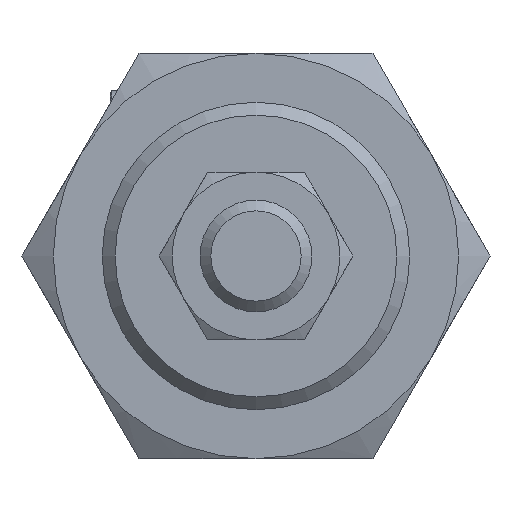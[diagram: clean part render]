
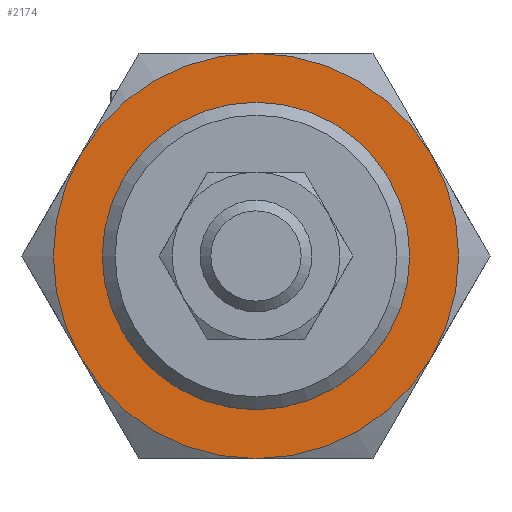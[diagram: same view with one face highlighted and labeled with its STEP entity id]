
A CAD part, left-side view. The second image highlights one B-rep face of the part: STEP entity #2174.
In plain terms, the highlighted planar face has unit normal (-1, 0, 0).
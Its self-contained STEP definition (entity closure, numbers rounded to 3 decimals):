
#750=ORIENTED_EDGE('',*,*,#1174,.T.);
#751=ORIENTED_EDGE('',*,*,#1179,.F.);
#752=ORIENTED_EDGE('',*,*,#1178,.F.);
#753=ORIENTED_EDGE('',*,*,#1180,.F.);
#754=ORIENTED_EDGE('',*,*,#1177,.F.);
#755=ORIENTED_EDGE('',*,*,#1176,.F.);
#756=ORIENTED_EDGE('',*,*,#1175,.F.);
#1174=EDGE_CURVE('',#1426,#1426,#1570,.T.);
#1175=EDGE_CURVE('',#1417,#1415,#1571,.T.);
#1176=EDGE_CURVE('',#1415,#1412,#1572,.T.);
#1177=EDGE_CURVE('',#1412,#1422,#1573,.T.);
#1178=EDGE_CURVE('',#1421,#1419,#1574,.T.);
#1179=EDGE_CURVE('',#1419,#1417,#1575,.T.);
#1180=EDGE_CURVE('',#1422,#1421,#1576,.T.);
#1412=VERTEX_POINT('',#3692);
#1415=VERTEX_POINT('',#3706);
#1417=VERTEX_POINT('',#3718);
#1419=VERTEX_POINT('',#3730);
#1421=VERTEX_POINT('',#3742);
#1422=VERTEX_POINT('',#3753);
#1426=VERTEX_POINT('',#3768);
#1570=CIRCLE('',#2399,11.);
#1571=CIRCLE('',#2401,14.5);
#1572=CIRCLE('',#2403,14.5);
#1573=CIRCLE('',#2405,14.5);
#1574=CIRCLE('',#2407,14.5);
#1575=CIRCLE('',#2409,14.5);
#1576=CIRCLE('',#2411,14.5);
#1737=EDGE_LOOP('',(#750));
#1738=EDGE_LOOP('',(#751,#752,#753,#754,#755,#756));
#1939=FACE_BOUND('',#1737,.T.);
#1940=FACE_BOUND('',#1738,.T.);
#2058=PLANE('',#2410);
#2174=ADVANCED_FACE('',(#1939,#1940),#2058,.F.);
#2399=AXIS2_PLACEMENT_3D('',#3767,#2889,#2890);
#2401=AXIS2_PLACEMENT_3D('',#3770,#2893,#2894);
#2403=AXIS2_PLACEMENT_3D('',#3772,#2897,#2898);
#2405=AXIS2_PLACEMENT_3D('',#3774,#2901,#2902);
#2407=AXIS2_PLACEMENT_3D('',#3776,#2905,#2906);
#2409=AXIS2_PLACEMENT_3D('',#3778,#2909,#2910);
#2410=AXIS2_PLACEMENT_3D('',#3779,#2911,#2912);
#2411=AXIS2_PLACEMENT_3D('',#3780,#2913,#2914);
#2889=DIRECTION('',(1.,0.,0.));
#2890=DIRECTION('',(0.,0.,-1.));
#2893=DIRECTION('',(1.,0.,0.));
#2894=DIRECTION('',(0.,0.,-1.));
#2897=DIRECTION('',(1.,0.,0.));
#2898=DIRECTION('',(0.,0.,-1.));
#2901=DIRECTION('',(1.,0.,0.));
#2902=DIRECTION('',(0.,0.,-1.));
#2905=DIRECTION('',(1.,0.,0.));
#2906=DIRECTION('',(0.,0.,-1.));
#2909=DIRECTION('',(1.,0.,0.));
#2910=DIRECTION('',(0.,0.,-1.));
#2911=DIRECTION('',(1.,0.,0.));
#2912=DIRECTION('',(0.,0.,-1.));
#2913=DIRECTION('',(1.,0.,0.));
#2914=DIRECTION('',(0.,0.,-1.));
#3692=CARTESIAN_POINT('',(-11.,0.,14.5));
#3706=CARTESIAN_POINT('',(-11.,12.557,7.25));
#3718=CARTESIAN_POINT('',(-11.,12.557,-7.25));
#3730=CARTESIAN_POINT('',(-11.,0.,-14.5));
#3742=CARTESIAN_POINT('',(-11.,-12.557,-7.25));
#3753=CARTESIAN_POINT('',(-11.,-12.557,7.25));
#3767=CARTESIAN_POINT('',(-11.,0.,0.));
#3768=CARTESIAN_POINT('',(-11.,0.,-11.));
#3770=CARTESIAN_POINT('',(-11.,0.,0.));
#3772=CARTESIAN_POINT('',(-11.,0.,0.));
#3774=CARTESIAN_POINT('',(-11.,0.,0.));
#3776=CARTESIAN_POINT('',(-11.,0.,0.));
#3778=CARTESIAN_POINT('',(-11.,0.,0.));
#3779=CARTESIAN_POINT('',(-11.,0.,0.));
#3780=CARTESIAN_POINT('',(-11.,0.,0.));
